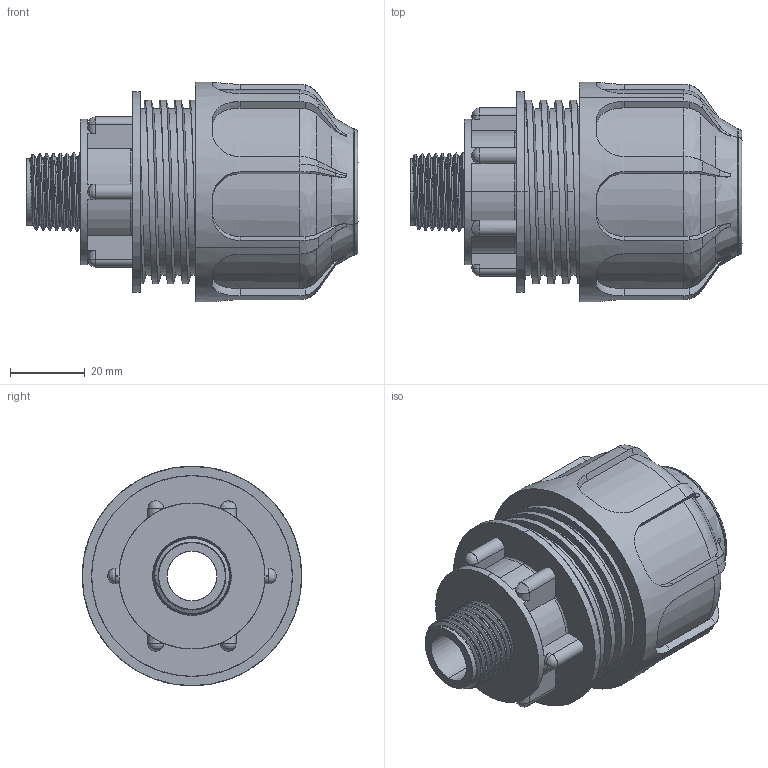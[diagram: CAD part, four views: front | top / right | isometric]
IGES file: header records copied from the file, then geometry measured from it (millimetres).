
Start section: SolidWorks IGES file using analytic representation for surfaces
Global section: file name: P:\DisegniUfficioTecnico\Articoli\ARTICOLI_3D\DISEGNI_STEP_IGS_SITO\02004\02004_IGS\02004.0320.IGS; native system: SolidWorks 2011; preprocessor: SolidWorks 2011; author: giacomo; date: 170522.154822; units: millimetre
Bounding box: 88.69 x 58.6 x 58.6 mm (x, y, z)
Surface area: 50852.8 mm2 (no closed solid volume)
Topology: 0 solids, 0 shells, 427 faces, 8985 edges, 8975 vertices
Faces by surface type: bspline 242, revolution 185
